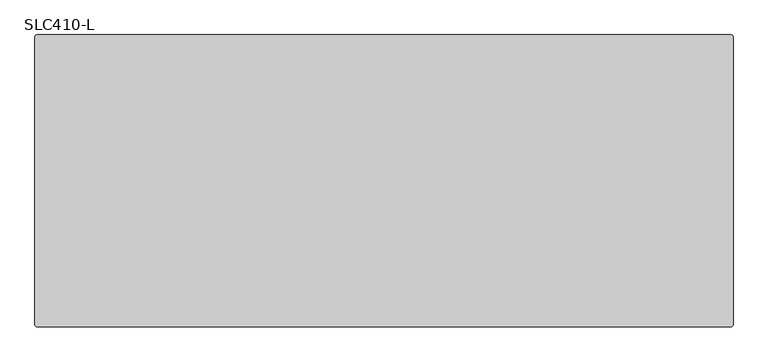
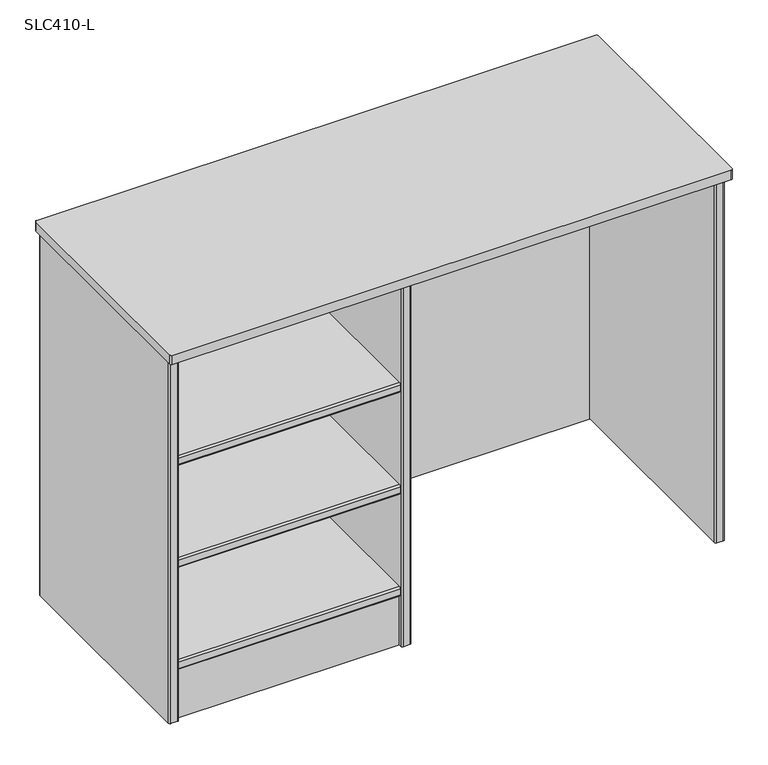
"""IFC4 building model written with IfcOpenShell, lengths in millimetres: furniture geometry, Stance_HC-Lotus-Desk-Shelves_Left : SLC410-L."""

from ifc_helpers import new_model, si_unit, point, frame, frame_2d, origin, origin_with_axes, place, context, project, spatial, polyline, circle_curve, trimmed, segment, composite_curve, outline, extrude, source, transform, mapped, element, save


def slc410_l_095e2484(model_context):
    return source(origin(), model_context, "Body", "SweptSolid", [
        extrude(outline(composite_curve([segment(polyline([(-434.1812621, 330.200003), (-25.4000008, 330.200003), (-25.4000008, 311.150003), (-434.1812621, 311.150003)]), True, "CONTINUOUS"), segment(trimmed(circle_curve(frame_2d((-434.1812621, 314.325003)), 3.175), [point((-434.1812621, 311.150003))], [point((-437.3562621, 314.325003))], False, "CARTESIAN"), True, "CONTINUOUS"), segment(polyline([(-437.3562621, 314.325003), (-437.3562621, 327.025003)]), True, "CONTINUOUS"), segment(trimmed(circle_curve(frame_2d((-434.1812621, 327.025003)), 3.175), [point((-437.3562621, 327.025003))], [point((-434.1812621, 330.200003))], False, "CARTESIAN"), True, "CONTINUOUS")], self_intersect=False)), frame((25.4000008, 0.0, 0.0), z_axis=(1.0, 0.0, 0.0), x_axis=(0.0, 1.0, 0.0)), (0.0, 0.0, 1.0), 431.7999992),
        extrude(outline(composite_curve([segment(polyline([(-434.1812621, 539.750003), (-25.4000008, 539.750003), (-25.4000008, 520.700003), (-434.1812621, 520.700003)]), True, "CONTINUOUS"), segment(trimmed(circle_curve(frame_2d((-434.1812621, 523.875003)), 3.175), [point((-434.1812621, 520.700003))], [point((-437.3562621, 523.875003))], False, "CARTESIAN"), True, "CONTINUOUS"), segment(polyline([(-437.3562621, 523.875003), (-437.3562621, 536.575003)]), True, "CONTINUOUS"), segment(trimmed(circle_curve(frame_2d((-434.1812621, 536.575003)), 3.175), [point((-437.3562621, 536.575003))], [point((-434.1812621, 539.750003))], False, "CARTESIAN"), True, "CONTINUOUS")], self_intersect=False)), frame((25.4000008, 0.0, 0.0), z_axis=(1.0, 0.0, 0.0), x_axis=(0.0, 1.0, 0.0)), (0.0, 0.0, 1.0), 431.7999992),
        extrude(outline(composite_curve([segment(polyline([(-434.1812621, 120.650003), (-25.4000008, 120.650003), (-25.4000008, 101.600003), (-434.1812621, 101.600003)]), True, "CONTINUOUS"), segment(trimmed(circle_curve(frame_2d((-434.1812621, 104.775003)), 3.175), [point((-434.1812621, 101.600003))], [point((-437.3562621, 104.775003))], False, "CARTESIAN"), True, "CONTINUOUS"), segment(polyline([(-437.3562621, 104.775003), (-437.3562621, 117.475003)]), True, "CONTINUOUS"), segment(trimmed(circle_curve(frame_2d((-434.1812621, 117.475003)), 3.175), [point((-437.3562621, 117.475003))], [point((-434.1812621, 120.650003))], False, "CARTESIAN"), True, "CONTINUOUS")], self_intersect=False)), frame((25.4000008, 0.0, 0.0), z_axis=(1.0, 0.0, 0.0), x_axis=(0.0, 1.0, 0.0)), (0.0, 0.0, 1.0), 431.7999992),
        extrude(outline(composite_curve([segment(trimmed(circle_curve(frame_2d((22.2250008, -6.3500001)), 3.175), [point((22.2250008, -3.1750001))], [point((25.4000008, -6.3500001))], False, "CARTESIAN"), True, "CONTINUOUS"), segment(polyline([(25.4000008, -6.3500001), (25.4000008, -438.1499879)]), True, "CONTINUOUS"), segment(trimmed(circle_curve(frame_2d((22.2250008, -438.1499879)), 3.175), [point((25.4000008, -438.1499879))], [point((22.2250008, -441.3249879))], False, "CARTESIAN"), True, "CONTINUOUS"), segment(polyline([(22.2250008, -441.3249879), (9.5250002, -441.3249879)]), True, "CONTINUOUS"), segment(trimmed(circle_curve(frame_2d((9.5250002, -438.1499879)), 3.175), [point((9.5250002, -441.3249879))], [point((6.3500002, -438.1499879))], False, "CARTESIAN"), True, "CONTINUOUS"), segment(polyline([(6.3500002, -438.1499879), (6.3500002, -6.3500001)]), True, "CONTINUOUS"), segment(trimmed(circle_curve(frame_2d((9.5250002, -6.3500001)), 3.175), [point((6.3500002, -6.3500001))], [point((9.5250002, -3.1750001))], False, "CARTESIAN"), True, "CONTINUOUS"), segment(polyline([(9.5250002, -3.1750001), (22.2250008, -3.1750001)]), True, "CONTINUOUS")], self_intersect=False)), origin_with_axes(), (0.0, 0.0, 1.0), 749.3000121),
        extrude(outline(composite_curve([segment(polyline([(1069.975, -3.1750001), (1082.6750006, -3.1750001)]), True, "CONTINUOUS"), segment(trimmed(circle_curve(frame_2d((1082.6750006, -6.3500001)), 3.175), [point((1082.6750006, -3.1750001))], [point((1085.8500006, -6.3500001))], False, "CARTESIAN"), True, "CONTINUOUS"), segment(polyline([(1085.8500006, -6.3500001), (1085.8500006, -438.1499879)]), True, "CONTINUOUS"), segment(trimmed(circle_curve(frame_2d((1082.6750006, -438.1499879)), 3.175), [point((1085.8500006, -438.1499879))], [point((1082.6750006, -441.3249879))], False, "CARTESIAN"), True, "CONTINUOUS"), segment(polyline([(1082.6750006, -441.3249879), (1069.975, -441.3249879)]), True, "CONTINUOUS"), segment(trimmed(circle_curve(frame_2d((1069.975, -438.1499879)), 3.175), [point((1069.975, -441.3249879))], [point((1066.8, -438.1499879))], False, "CARTESIAN"), True, "CONTINUOUS"), segment(polyline([(1066.8, -438.1499879), (1066.8, -6.3500001)]), True, "CONTINUOUS"), segment(trimmed(circle_curve(frame_2d((1069.975, -6.3500001)), 3.175), [point((1066.8, -6.3500001))], [point((1069.975, -3.1750001))], False, "CARTESIAN"), True, "CONTINUOUS")], self_intersect=False)), origin_with_axes(), (0.0, 0.0, 1.0), 749.3000121),
        extrude(outline(composite_curve([segment(trimmed(circle_curve(frame_2d((473.0749886, -22.225)), 3.175), [point((473.0749886, -19.05))], [point((476.2499886, -22.225))], False, "CARTESIAN"), True, "CONTINUOUS"), segment(polyline([(476.2499886, -22.225), (476.2499886, -438.1499879)]), True, "CONTINUOUS"), segment(trimmed(circle_curve(frame_2d((473.0749886, -438.1499879)), 3.175), [point((476.2499886, -438.1499879))], [point((473.0749886, -441.3249879))], False, "CARTESIAN"), True, "CONTINUOUS"), segment(polyline([(473.0749886, -441.3249879), (460.3749881, -441.3249879)]), True, "CONTINUOUS"), segment(trimmed(circle_curve(frame_2d((460.3749881, -438.1499879)), 3.175), [point((460.3749881, -441.3249879))], [point((457.1999881, -438.1499879))], False, "CARTESIAN"), True, "CONTINUOUS"), segment(polyline([(457.1999881, -438.1499879), (457.1999881, -22.225)]), True, "CONTINUOUS"), segment(trimmed(circle_curve(frame_2d((460.3749881, -22.225)), 3.175), [point((457.1999881, -22.225))], [point((460.3749881, -19.05))], False, "CARTESIAN"), True, "CONTINUOUS"), segment(polyline([(460.3749881, -19.05), (473.0749886, -19.05)]), True, "CONTINUOUS")], self_intersect=False)), origin_with_axes(), (0.0, 0.0, 1.0), 749.3000121),
        extrude(outline(composite_curve([segment(trimmed(circle_curve(frame_2d((1089.025, -3.175)), 3.175), [point((1089.025, 0.0))], [point((1092.2, -3.175))], False, "CARTESIAN"), True, "CONTINUOUS"), segment(polyline([(1092.2, -3.175), (1092.2, -454.025)]), True, "CONTINUOUS"), segment(trimmed(circle_curve(frame_2d((1089.025, -454.025)), 3.175), [point((1092.2, -454.025))], [point((1089.025, -457.2))], False, "CARTESIAN"), True, "CONTINUOUS"), segment(polyline([(1089.025, -457.2), (3.175, -457.2)]), True, "CONTINUOUS"), segment(trimmed(circle_curve(frame_2d((3.175, -454.025)), 3.175), [point((3.175, -457.2))], [point((0.0, -454.025))], False, "CARTESIAN"), True, "CONTINUOUS"), segment(polyline([(0.0, -454.025), (0.0, -3.175)]), True, "CONTINUOUS"), segment(trimmed(circle_curve(frame_2d((3.175, -3.175)), 3.175), [point((0.0, -3.175))], [point((3.175, 0.0))], False, "CARTESIAN"), True, "CONTINUOUS"), segment(polyline([(3.175, 0.0), (1089.025, 0.0)]), True, "CONTINUOUS")], self_intersect=False)), frame((0.0, 0.0, 749.3000121), z_axis=(0.0, 0.0, 1.0), x_axis=(1.0, 0.0, 0.0)), (0.0, 0.0, 1.0), 19.0499879),
        extrude(outline(polyline([(25.4000008, -414.3375), (457.1999881, -414.3375), (457.1999881, -433.3875), (25.4000008, -433.3875), (25.4000008, -414.3375)])), origin_with_axes(), (0.0, 0.0, 1.0), 101.600003),
        extrude(outline(polyline([(1066.8, -19.05), (25.4000008, -19.05), (25.4000008, 0.0), (1066.8, 0.0), (1066.8, -19.05)])), origin_with_axes(), (0.0, 0.0, 1.0), 749.3000121),
    ])


if __name__ == "__main__":
    model = new_model("IFC4")
    model_context = context("Model", 3, world=origin())
    ifc_project = project(units=[si_unit("LENGTHUNIT", "METRE", prefix="MILLI")], contexts=[model_context])
    site = spatial("IfcSite", under=ifc_project)
    building = spatial("IfcBuilding", under=site)
    placement = place(None, origin())
    slc410_l_shape = slc410_l_095e2484(model_context)
    element("IfcFurniture", 1, ObjectType="Stance_HC-Lotus-Desk-Shelves_Left : SLC410-L", at=placement, inside=building, context=model_context, shape_type="MappedRepresentation", body=[
        mapped(slc410_l_shape, transform((0.0, 0.0, 0.0), x_axis=(1.0, 0.0, 0.0), y_axis=(0.0, 1.0, 0.0), z_axis=(0.0, 0.0, 1.0))),
    ])
    save(model, "model.ifc")
